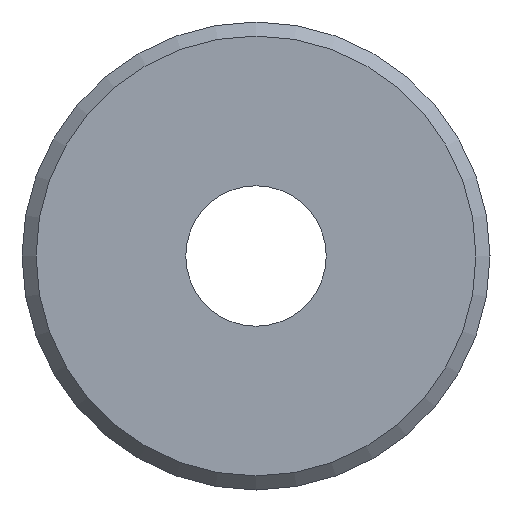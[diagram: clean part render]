
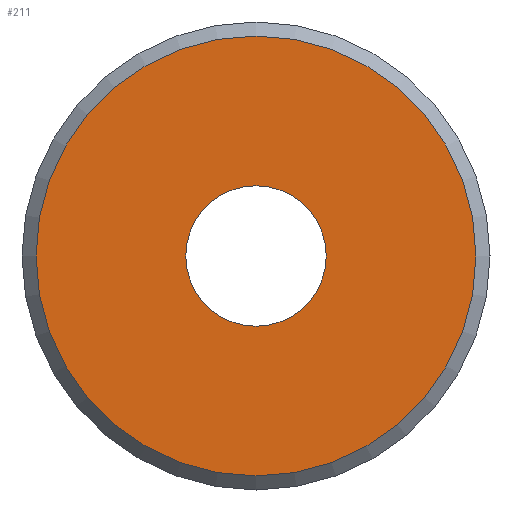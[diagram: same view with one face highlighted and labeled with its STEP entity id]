
A CAD part, left-side view. The second image highlights one B-rep face of the part: STEP entity #211.
In plain terms, the highlighted planar face has unit normal (-1, 0, 0).
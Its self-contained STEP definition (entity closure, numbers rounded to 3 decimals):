
#177=CARTESIAN_POINT('',(0.0,1.5,0.0));
#178=VERTEX_POINT('',#177);
#179=CARTESIAN_POINT('',(0.,0.,0.0));
#180=DIRECTION('',(1.0,0.0,0.0));
#181=DIRECTION('',(0.0,1.0,0.0));
#182=AXIS2_PLACEMENT_3D('',#179,#180,#181);
#183=CIRCLE('',#182,1.5);
#184=EDGE_CURVE('',#178,#178,#183,.T.);
#192=CARTESIAN_POINT('',(0.0,3.1,0.0));
#193=DIRECTION('',(-1.0,0.0,0.0));
#194=DIRECTION('',(0.0,0.0,1.0));
#195=AXIS2_PLACEMENT_3D('',#192,#193,#194);
#196=PLANE('',#195);
#197=CARTESIAN_POINT('',(0.0,4.7,0.0));
#198=VERTEX_POINT('',#197);
#199=CARTESIAN_POINT('',(0.,0.,0.0));
#200=DIRECTION('',(1.0,0.0,0.0));
#201=DIRECTION('',(0.0,1.0,0.0));
#202=AXIS2_PLACEMENT_3D('',#199,#200,#201);
#203=CIRCLE('',#202,4.7);
#204=EDGE_CURVE('',#198,#198,#203,.T.);
#205=ORIENTED_EDGE('',*,*,#204,.F.);
#206=EDGE_LOOP('',(#205));
#207=FACE_OUTER_BOUND('',#206,.T.);
#208=ORIENTED_EDGE('',*,*,#184,.T.);
#209=EDGE_LOOP('',(#208));
#210=FACE_BOUND('',#209,.T.);
#211=ADVANCED_FACE('',(#207,#210),#196,.T.);
